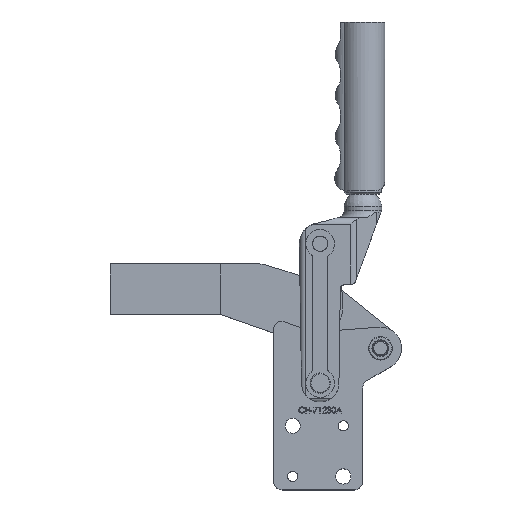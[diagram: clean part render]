
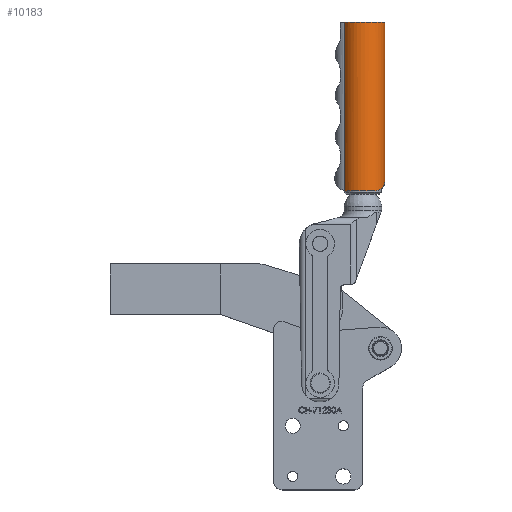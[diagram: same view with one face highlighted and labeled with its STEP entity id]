
A CAD part, top view. The second image highlights one B-rep face of the part: STEP entity #10183.
In plain terms, the highlighted cylindrical face has radius 13 mm (diameter 26 mm), a partial arc.
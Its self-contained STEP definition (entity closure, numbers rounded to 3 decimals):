
#254=B_SPLINE_CURVE_WITH_KNOTS('',3,(#14755,#14756,#14757,#14758,#14759,
#14760,#14761,#14762,#14763,#14764),.UNSPECIFIED.,.F.,.F.,(4,2,2,2,4),(-4.357,
-3.97,-3.582,-3.317,-3.052),
 .UNSPECIFIED.);
#255=B_SPLINE_CURVE_WITH_KNOTS('',3,(#14766,#14767,#14768,#14769,#14770,
#14771,#14772,#14773,#14774,#14775),.UNSPECIFIED.,.F.,.F.,(4,2,2,2,4),(-4.357,
-3.97,-3.582,-3.317,-3.052),
 .UNSPECIFIED.);
#256=B_SPLINE_CURVE_WITH_KNOTS('',3,(#14779,#14780,#14781,#14782),
 .UNSPECIFIED.,.F.,.F.,(4,4),(0.844,0.94),
 .UNSPECIFIED.);
#257=B_SPLINE_CURVE_WITH_KNOTS('',3,(#14788,#14789,#14790,#14791,#14792,
#14793),.UNSPECIFIED.,.F.,.F.,(4,2,4),(-0.497,-0.249,
0.),.UNSPECIFIED.);
#258=B_SPLINE_CURVE_WITH_KNOTS('',3,(#14795,#14796,#14797,#14798,#14799,
#14800),.UNSPECIFIED.,.F.,.F.,(4,2,4),(-0.497,-0.249,
0.),.UNSPECIFIED.);
#259=B_SPLINE_CURVE_WITH_KNOTS('',3,(#14806,#14807,#14808,#14809),
 .UNSPECIFIED.,.F.,.F.,(4,4),(2.933,3.029),
 .UNSPECIFIED.);
#961=CYLINDRICAL_SURFACE('',#11062,13.);
#1153=FACE_OUTER_BOUND('',#1720,.T.);
#1720=EDGE_LOOP('',(#7259,#7260,#7261,#7262,#7263,#7264,#7265,#7266,#7267,
#7268,#7269,#7270));
#2350=LINE('',#14784,#3190);
#2351=LINE('',#14804,#3191);
#3190=VECTOR('',#12162,1000.);
#3191=VECTOR('',#12167,1000.);
#4049=CIRCLE('',#11063,13.);
#4050=CIRCLE('',#11064,13.);
#4051=CIRCLE('',#11065,13.);
#4052=CIRCLE('',#11066,13.);
#4437=VERTEX_POINT('',#14753);
#4438=VERTEX_POINT('',#14754);
#4439=VERTEX_POINT('',#14765);
#4440=VERTEX_POINT('',#14776);
#4441=VERTEX_POINT('',#14778);
#4442=VERTEX_POINT('',#14783);
#4443=VERTEX_POINT('',#14785);
#4444=VERTEX_POINT('',#14787);
#4445=VERTEX_POINT('',#14794);
#4446=VERTEX_POINT('',#14801);
#4447=VERTEX_POINT('',#14803);
#4448=VERTEX_POINT('',#14805);
#5547=EDGE_CURVE('',#4437,#4438,#254,.T.);
#5548=EDGE_CURVE('',#4437,#4439,#255,.T.);
#5549=EDGE_CURVE('',#4439,#4440,#4049,.T.);
#5550=EDGE_CURVE('',#4441,#4440,#256,.T.);
#5551=EDGE_CURVE('',#4441,#4442,#2350,.T.);
#5552=EDGE_CURVE('',#4442,#4443,#4050,.T.);
#5553=EDGE_CURVE('',#4443,#4444,#257,.T.);
#5554=EDGE_CURVE('',#4445,#4444,#258,.T.);
#5555=EDGE_CURVE('',#4445,#4446,#4051,.T.);
#5556=EDGE_CURVE('',#4446,#4447,#2351,.T.);
#5557=EDGE_CURVE('',#4447,#4448,#259,.T.);
#5558=EDGE_CURVE('',#4448,#4438,#4052,.T.);
#7259=ORIENTED_EDGE('',*,*,#5547,.F.);
#7260=ORIENTED_EDGE('',*,*,#5548,.T.);
#7261=ORIENTED_EDGE('',*,*,#5549,.T.);
#7262=ORIENTED_EDGE('',*,*,#5550,.F.);
#7263=ORIENTED_EDGE('',*,*,#5551,.T.);
#7264=ORIENTED_EDGE('',*,*,#5552,.T.);
#7265=ORIENTED_EDGE('',*,*,#5553,.T.);
#7266=ORIENTED_EDGE('',*,*,#5554,.F.);
#7267=ORIENTED_EDGE('',*,*,#5555,.T.);
#7268=ORIENTED_EDGE('',*,*,#5556,.T.);
#7269=ORIENTED_EDGE('',*,*,#5557,.T.);
#7270=ORIENTED_EDGE('',*,*,#5558,.T.);
#10183=ADVANCED_FACE('',(#1153),#961,.T.);
#11062=AXIS2_PLACEMENT_3D('',#14752,#12158,#12159);
#11063=AXIS2_PLACEMENT_3D('',#14777,#12160,#12161);
#11064=AXIS2_PLACEMENT_3D('',#14786,#12163,#12164);
#11065=AXIS2_PLACEMENT_3D('',#14802,#12165,#12166);
#11066=AXIS2_PLACEMENT_3D('',#14810,#12168,#12169);
#12158=DIRECTION('center_axis',(0.,-1.,0.));
#12159=DIRECTION('ref_axis',(1.,0.,0.));
#12160=DIRECTION('center_axis',(0.,-1.,0.));
#12161=DIRECTION('ref_axis',(1.,0.,0.));
#12162=DIRECTION('',(0.,-1.,0.));
#12163=DIRECTION('center_axis',(0.,1.,0.));
#12164=DIRECTION('ref_axis',(1.,0.,0.));
#12165=DIRECTION('center_axis',(0.,1.,0.));
#12166=DIRECTION('ref_axis',(1.,0.,0.));
#12167=DIRECTION('',(0.,1.,0.));
#12168=DIRECTION('center_axis',(0.,-1.,0.));
#12169=DIRECTION('ref_axis',(1.,0.,0.));
#14752=CARTESIAN_POINT('Origin',(-7343.269,8349.774,25.));
#14753=CARTESIAN_POINT('',(-7330.269,8344.274,25.));
#14754=CARTESIAN_POINT('',(-7335.769,8349.774,14.382));
#14755=CARTESIAN_POINT('Ctrl Pts',(-7330.269,8344.274,25.));
#14756=CARTESIAN_POINT('Ctrl Pts',(-7330.269,8344.978,23.918));
#14757=CARTESIAN_POINT('Ctrl Pts',(-7330.412,8345.746,22.739));
#14758=CARTESIAN_POINT('Ctrl Pts',(-7331.041,8347.193,20.427));
#14759=CARTESIAN_POINT('Ctrl Pts',(-7331.53,8347.87,19.293));
#14760=CARTESIAN_POINT('Ctrl Pts',(-7332.553,8348.77,17.597));
#14761=CARTESIAN_POINT('Ctrl Pts',(-7333.086,8349.122,16.867));
#14762=CARTESIAN_POINT('Ctrl Pts',(-7334.332,8349.626,15.514));
#14763=CARTESIAN_POINT('Ctrl Pts',(-7335.047,8349.774,14.892));
#14764=CARTESIAN_POINT('Ctrl Pts',(-7335.769,8349.774,14.382));
#14765=CARTESIAN_POINT('',(-7335.769,8349.774,35.618));
#14766=CARTESIAN_POINT('Ctrl Pts',(-7330.269,8344.274,25.));
#14767=CARTESIAN_POINT('Ctrl Pts',(-7330.269,8344.978,26.082));
#14768=CARTESIAN_POINT('Ctrl Pts',(-7330.412,8345.746,27.261));
#14769=CARTESIAN_POINT('Ctrl Pts',(-7331.041,8347.193,29.573));
#14770=CARTESIAN_POINT('Ctrl Pts',(-7331.53,8347.87,30.707));
#14771=CARTESIAN_POINT('Ctrl Pts',(-7332.553,8348.77,32.403));
#14772=CARTESIAN_POINT('Ctrl Pts',(-7333.086,8349.122,33.133));
#14773=CARTESIAN_POINT('Ctrl Pts',(-7334.332,8349.626,34.486));
#14774=CARTESIAN_POINT('Ctrl Pts',(-7335.047,8349.774,35.108));
#14775=CARTESIAN_POINT('Ctrl Pts',(-7335.769,8349.774,35.618));
#14776=CARTESIAN_POINT('',(-7352.826,8349.774,33.813));
#14777=CARTESIAN_POINT('Origin',(-7343.269,8349.774,25.));
#14778=CARTESIAN_POINT('',(-7353.458,8349.746,33.074));
#14779=CARTESIAN_POINT('Ctrl Pts',(-7353.458,8349.746,33.074));
#14780=CARTESIAN_POINT('Ctrl Pts',(-7353.255,8349.764,33.33));
#14781=CARTESIAN_POINT('Ctrl Pts',(-7353.044,8349.774,33.577));
#14782=CARTESIAN_POINT('Ctrl Pts',(-7352.826,8349.774,33.813));
#14783=CARTESIAN_POINT('',(-7353.458,8249.775,33.074));
#14784=CARTESIAN_POINT('',(-7353.458,8349.774,33.074));
#14785=CARTESIAN_POINT('',(-7331.269,8249.775,30.));
#14786=CARTESIAN_POINT('Origin',(-7343.269,8249.775,25.));
#14787=CARTESIAN_POINT('',(-7330.269,8250.775,25.));
#14788=CARTESIAN_POINT('Ctrl Pts',(-7331.269,8249.775,30.));
#14789=CARTESIAN_POINT('Ctrl Pts',(-7330.951,8249.775,29.235));
#14790=CARTESIAN_POINT('Ctrl Pts',(-7330.688,8249.921,28.388));
#14791=CARTESIAN_POINT('Ctrl Pts',(-7330.347,8250.309,26.67));
#14792=CARTESIAN_POINT('Ctrl Pts',(-7330.269,8250.553,25.798));
#14793=CARTESIAN_POINT('Ctrl Pts',(-7330.269,8250.775,25.));
#14794=CARTESIAN_POINT('',(-7331.269,8249.775,20.));
#14795=CARTESIAN_POINT('Ctrl Pts',(-7331.269,8249.775,20.));
#14796=CARTESIAN_POINT('Ctrl Pts',(-7330.951,8249.775,20.765));
#14797=CARTESIAN_POINT('Ctrl Pts',(-7330.688,8249.921,21.612));
#14798=CARTESIAN_POINT('Ctrl Pts',(-7330.347,8250.309,23.33));
#14799=CARTESIAN_POINT('Ctrl Pts',(-7330.269,8250.553,24.202));
#14800=CARTESIAN_POINT('Ctrl Pts',(-7330.269,8250.775,25.));
#14801=CARTESIAN_POINT('',(-7353.458,8249.775,16.926));
#14802=CARTESIAN_POINT('Origin',(-7343.269,8249.775,25.));
#14803=CARTESIAN_POINT('',(-7353.458,8349.746,16.926));
#14804=CARTESIAN_POINT('',(-7353.458,8349.774,16.926));
#14805=CARTESIAN_POINT('',(-7352.826,8349.774,16.187));
#14806=CARTESIAN_POINT('Ctrl Pts',(-7353.458,8349.746,16.926));
#14807=CARTESIAN_POINT('Ctrl Pts',(-7353.255,8349.764,16.67));
#14808=CARTESIAN_POINT('Ctrl Pts',(-7353.044,8349.774,16.423));
#14809=CARTESIAN_POINT('Ctrl Pts',(-7352.826,8349.774,16.187));
#14810=CARTESIAN_POINT('Origin',(-7343.269,8349.774,25.));
